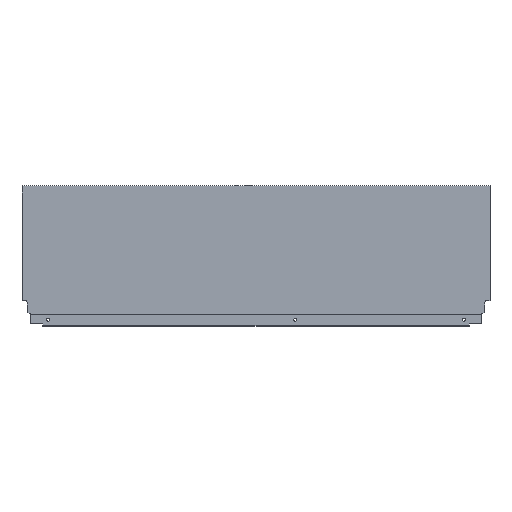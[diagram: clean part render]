
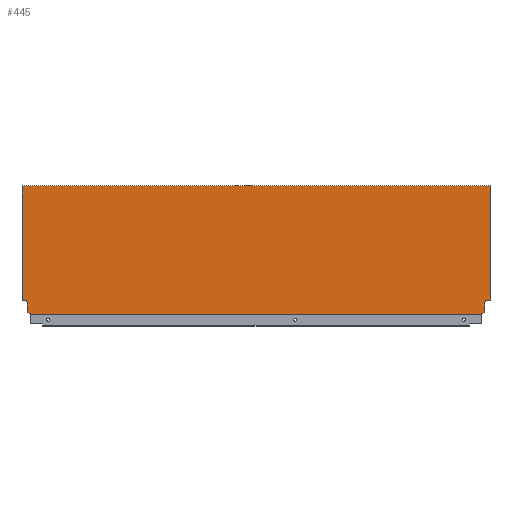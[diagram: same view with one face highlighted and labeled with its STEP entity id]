
A CAD part, top view. The second image highlights one B-rep face of the part: STEP entity #445.
In plain terms, the highlighted planar face has unit normal (0, 0, 1).
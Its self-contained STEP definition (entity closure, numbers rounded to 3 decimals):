
#54 = EDGE_CURVE ( 'NONE', #999, #1007, #1129, .T. ) ;
#74 = EDGE_CURVE ( 'NONE', #996, #987, #258, .T. ) ;
#105 = EDGE_CURVE ( 'NONE', #1010, #974, #303, .T. ) ;
#120 = EDGE_CURVE ( 'NONE', #998, #982, #319, .T. ) ;
#126 = AXIS2_PLACEMENT_3D ( 'NONE', #743, #667, #669 ) ;
#146 = EDGE_CURVE ( 'NONE', #1000, #1004, #329, .T. ) ;
#147 = EDGE_CURVE ( 'NONE', #996, #1022, #331, .T. ) ;
#150 = EDGE_CURVE ( 'NONE', #1017, #975, #337, .T. ) ;
#152 = EDGE_CURVE ( 'NONE', #1007, #1023, #341, .T. ) ;
#156 = EDGE_CURVE ( 'NONE', #1022, #1017, #349, .T. ) ;
#164 = EDGE_CURVE ( 'NONE', #974, #987, #361, .T. ) ;
#180 = EDGE_CURVE ( 'NONE', #999, #982, #367, .T. ) ;
#181 = EDGE_CURVE ( 'NONE', #1023, #1000, #369, .T. ) ;
#183 = EDGE_CURVE ( 'NONE', #975, #998, #373, .T. ) ;
#187 = EDGE_CURVE ( 'NONE', #1004, #1010, #380, .T. ) ;
#258 = LINE ( 'NONE', #818, #266 ) ;
#266 = VECTOR ( 'NONE', #1087, 1000. ) ;
#297 = VECTOR ( 'NONE', #1095, 1000. ) ;
#303 = LINE ( 'NONE', #1094, #297 ) ;
#319 = LINE ( 'NONE', #1053, #320 ) ;
#320 = VECTOR ( 'NONE', #1054, 1000. ) ;
#329 = LINE ( 'NONE', #1115, #330 ) ;
#330 = VECTOR ( 'NONE', #1116, 1000. ) ;
#331 = LINE ( 'NONE', #1108, #332 ) ;
#332 = VECTOR ( 'NONE', #1110, 1000. ) ;
#337 = LINE ( 'NONE', #1084, #338 ) ;
#338 = VECTOR ( 'NONE', #1082, 1000. ) ;
#341 = LINE ( 'NONE', #899, #342 ) ;
#342 = VECTOR ( 'NONE', #900, 1000. ) ;
#349 = LINE ( 'NONE', #1109, #350 ) ;
#350 = VECTOR ( 'NONE', #1074, 1000. ) ;
#361 = LINE ( 'NONE', #661, #362 ) ;
#362 = VECTOR ( 'NONE', #752, 1000. ) ;
#367 = LINE ( 'NONE', #766, #368 ) ;
#368 = VECTOR ( 'NONE', #733, 1000. ) ;
#369 = LINE ( 'NONE', #732, #370 ) ;
#370 = VECTOR ( 'NONE', #731, 1000. ) ;
#373 = LINE ( 'NONE', #668, #374 ) ;
#374 = VECTOR ( 'NONE', #653, 1000. ) ;
#380 = LINE ( 'NONE', #558, #381 ) ;
#381 = VECTOR ( 'NONE', #566, 1000. ) ;
#445 = ADVANCED_FACE ( 'NONE', ( #1518 ), #747, .T. ) ;
#509 = CARTESIAN_POINT ( 'NONE',  ( 0., 21.2, 7.5 ) ) ;
#516 = CARTESIAN_POINT ( 'NONE',  ( -708.1, 2.64, 7.5 ) ) ;
#519 = CARTESIAN_POINT ( 'NONE',  ( -703.996, 1.146, 7.5 ) ) ;
#550 = CARTESIAN_POINT ( 'NONE',  ( -13.004, 1.146, 7.5 ) ) ;
#553 = CARTESIAN_POINT ( 'NONE',  ( -708.1, 10.765, 7.5 ) ) ;
#558 = CARTESIAN_POINT ( 'NONE',  ( -8.9, 10.765, 7.5 ) ) ;
#566 = DIRECTION ( 'NONE',  ( 0., -1., 0. ) ) ;
#570 = CARTESIAN_POINT ( 'NONE',  ( -717., 21.2, 7.5 ) ) ;
#586 = CARTESIAN_POINT ( 'NONE',  ( -13.004, 0., 7.5 ) ) ;
#607 = CARTESIAN_POINT ( 'NONE',  ( -703.996, 0., 7.5 ) ) ;
#612 = CARTESIAN_POINT ( 'NONE',  ( -709.94, 21.2, 7.5 ) ) ;
#614 = CARTESIAN_POINT ( 'NONE',  ( -717., 196.7, 7.5 ) ) ;
#616 = CARTESIAN_POINT ( 'NONE',  ( -7.06, 21.2, 7.5 ) ) ;
#625 = CARTESIAN_POINT ( 'NONE',  ( -8.9, 10.765, 7.5 ) ) ;
#632 = CARTESIAN_POINT ( 'NONE',  ( 0., 196.7, 7.5 ) ) ;
#639 = CARTESIAN_POINT ( 'NONE',  ( -8.9, 2.64, 7.5 ) ) ;
#653 = DIRECTION ( 'NONE',  ( -0.174, 0.985, 0. ) ) ;
#661 = CARTESIAN_POINT ( 'NONE',  ( -13.004, 1.146, 7.5 ) ) ;
#667 = DIRECTION ( 'NONE',  ( 0., 0., 1. ) ) ;
#668 = CARTESIAN_POINT ( 'NONE',  ( -709.94, 21.2, 7.5 ) ) ;
#669 = DIRECTION ( 'NONE',  ( 1., 0., 0. ) ) ;
#731 = DIRECTION ( 'NONE',  ( -1., 0., 0. ) ) ;
#732 = CARTESIAN_POINT ( 'NONE',  ( 0., 21.2, 7.5 ) ) ;
#733 = DIRECTION ( 'NONE',  ( 0., -1., 0. ) ) ;
#743 = CARTESIAN_POINT ( 'NONE',  ( -717., 0., 7.5 ) ) ;
#747 = PLANE ( 'NONE',  #126 ) ;
#752 = DIRECTION ( 'NONE',  ( 0., -1., 0. ) ) ;
#766 = CARTESIAN_POINT ( 'NONE',  ( -717., 0., 7.5 ) ) ;
#818 = CARTESIAN_POINT ( 'NONE',  ( -717., 0., 7.5 ) ) ;
#837 = DIRECTION ( 'NONE',  ( 1., 0., 0. ) ) ;
#838 = CARTESIAN_POINT ( 'NONE',  ( -717., 196.7, 7.5 ) ) ;
#899 = CARTESIAN_POINT ( 'NONE',  ( 0., 0., 7.5 ) ) ;
#900 = DIRECTION ( 'NONE',  ( 0., -1., 0. ) ) ;
#974 = VERTEX_POINT ( 'NONE', #550 ) ;
#975 = VERTEX_POINT ( 'NONE', #553 ) ;
#982 = VERTEX_POINT ( 'NONE', #570 ) ;
#987 = VERTEX_POINT ( 'NONE', #586 ) ;
#996 = VERTEX_POINT ( 'NONE', #607 ) ;
#998 = VERTEX_POINT ( 'NONE', #612 ) ;
#999 = VERTEX_POINT ( 'NONE', #614 ) ;
#1000 = VERTEX_POINT ( 'NONE', #616 ) ;
#1004 = VERTEX_POINT ( 'NONE', #625 ) ;
#1007 = VERTEX_POINT ( 'NONE', #632 ) ;
#1010 = VERTEX_POINT ( 'NONE', #639 ) ;
#1017 = VERTEX_POINT ( 'NONE', #516 ) ;
#1022 = VERTEX_POINT ( 'NONE', #519 ) ;
#1023 = VERTEX_POINT ( 'NONE', #509 ) ;
#1053 = CARTESIAN_POINT ( 'NONE',  ( -722., 21.2, 7.5 ) ) ;
#1054 = DIRECTION ( 'NONE',  ( -1., 0., 0. ) ) ;
#1074 = DIRECTION ( 'NONE',  ( -0.94, 0.342, 0. ) ) ;
#1082 = DIRECTION ( 'NONE',  ( 0., 1., 0. ) ) ;
#1084 = CARTESIAN_POINT ( 'NONE',  ( -708.1, 10.765, 7.5 ) ) ;
#1087 = DIRECTION ( 'NONE',  ( 1., 0., 0. ) ) ;
#1094 = CARTESIAN_POINT ( 'NONE',  ( -8.9, 2.64, 7.5 ) ) ;
#1095 = DIRECTION ( 'NONE',  ( -0.94, -0.342, 0. ) ) ;
#1108 = CARTESIAN_POINT ( 'NONE',  ( -703.996, 1.146, 7.5 ) ) ;
#1109 = CARTESIAN_POINT ( 'NONE',  ( -708.1, 2.64, 7.5 ) ) ;
#1110 = DIRECTION ( 'NONE',  ( 0., 1., 0. ) ) ;
#1115 = CARTESIAN_POINT ( 'NONE',  ( -7.06, 21.2, 7.5 ) ) ;
#1116 = DIRECTION ( 'NONE',  ( -0.174, -0.985, 0. ) ) ;
#1128 = VECTOR ( 'NONE', #837, 1000. ) ;
#1129 = LINE ( 'NONE', #838, #1128 ) ;
#1182 = EDGE_LOOP ( 'NONE', ( #1468, #1456, #1455, #1447, #1450, #1449, #1478, #1425, #1424, #1431, #1428, #1427, #1423, #1442 ) ) ;
#1423 = ORIENTED_EDGE ( 'NONE', *, *, #152, .F. ) ;
#1424 = ORIENTED_EDGE ( 'NONE', *, *, #105, .F. ) ;
#1425 = ORIENTED_EDGE ( 'NONE', *, *, #164, .F. ) ;
#1427 = ORIENTED_EDGE ( 'NONE', *, *, #181, .F. ) ;
#1428 = ORIENTED_EDGE ( 'NONE', *, *, #146, .F. ) ;
#1431 = ORIENTED_EDGE ( 'NONE', *, *, #187, .F. ) ;
#1442 = ORIENTED_EDGE ( 'NONE', *, *, #54, .F. ) ;
#1447 = ORIENTED_EDGE ( 'NONE', *, *, #150, .F. ) ;
#1449 = ORIENTED_EDGE ( 'NONE', *, *, #147, .F. ) ;
#1450 = ORIENTED_EDGE ( 'NONE', *, *, #156, .F. ) ;
#1455 = ORIENTED_EDGE ( 'NONE', *, *, #183, .F. ) ;
#1456 = ORIENTED_EDGE ( 'NONE', *, *, #120, .F. ) ;
#1468 = ORIENTED_EDGE ( 'NONE', *, *, #180, .T. ) ;
#1478 = ORIENTED_EDGE ( 'NONE', *, *, #74, .T. ) ;
#1518 = FACE_OUTER_BOUND ( 'NONE', #1182, .T. ) ;
